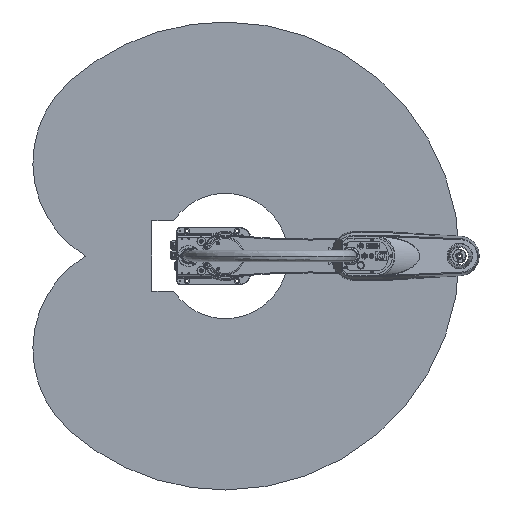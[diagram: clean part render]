
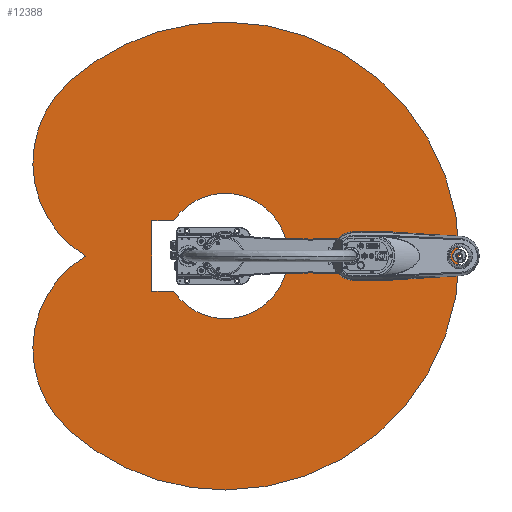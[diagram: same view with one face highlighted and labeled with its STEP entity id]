
A CAD part, left-side view. The second image highlights one B-rep face of the part: STEP entity #12388.
In plain terms, the highlighted planar face has unit normal (-1, 0, 0) as drawn and (0, -1, 0) by its records, which use the part's own axes.
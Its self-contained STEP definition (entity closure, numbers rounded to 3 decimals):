
#1773 = EDGE_CURVE ( 'NONE', #23211, #114448, #43811, .T. ) ;
#2830 = FACE_OUTER_BOUND ( 'NONE', #104719, .T. ) ;
#3336 = AXIS2_PLACEMENT_3D ( 'NONE', #103872, #94547, #105117 ) ;
#3426 = EDGE_LOOP ( 'NONE', ( #86928, #67256, #100116, #80178, #57767, #36281 ) ) ;
#8699 = AXIS2_PLACEMENT_3D ( 'NONE', #41858, #30717, #69719 ) ;
#9034 = CARTESIAN_POINT ( 'NONE',  ( 0., 0., 0. ) ) ;
#10768 = DIRECTION ( 'NONE',  ( 0., 0., 1. ) ) ;
#11039 = VECTOR ( 'NONE', #11807, 1000. ) ;
#11221 = CARTESIAN_POINT ( 'NONE',  ( 0., 0., 0. ) ) ;
#11807 = DIRECTION ( 'NONE',  ( -1., 0., 0. ) ) ;
#12184 = DIRECTION ( 'NONE',  ( 0., 1., 0. ) ) ;
#12388 = ADVANCED_FACE ( 'NONE', ( #2830, #98858 ), #87125, .T. ) ;
#13981 = CARTESIAN_POINT ( 'NONE',  ( 220., 0., -105. ) ) ;
#14225 = VERTEX_POINT ( 'NONE', #58278 ) ;
#14537 = EDGE_CURVE ( 'NONE', #86498, #76480, #83116, .T. ) ;
#15632 = LINE ( 'NONE', #43542, #24030 ) ;
#15682 = ORIENTED_EDGE ( 'NONE', *, *, #14537, .F. ) ;
#17871 = LINE ( 'NONE', #55684, #45262 ) ;
#20796 = DIRECTION ( 'NONE',  ( 0., 0., 1. ) ) ;
#23211 = VERTEX_POINT ( 'NONE', #115252 ) ;
#23435 = DIRECTION ( 'NONE',  ( 0., 1., 0. ) ) ;
#24030 = VECTOR ( 'NONE', #44142, 1000. ) ;
#25366 = ORIENTED_EDGE ( 'NONE', *, *, #1773, .F. ) ;
#27861 = AXIS2_PLACEMENT_3D ( 'NONE', #59289, #86549, #97076 ) ;
#28753 = DIRECTION ( 'NONE',  ( 0., 1., 0. ) ) ;
#30194 = CARTESIAN_POINT ( 'NONE',  ( 0., 0., 0. ) ) ;
#30717 = DIRECTION ( 'NONE',  ( 0., 1., 0. ) ) ;
#31360 = DIRECTION ( 'NONE',  ( 0., -1., 0. ) ) ;
#33877 = CIRCLE ( 'NONE', #27861, 325. ) ;
#36281 = ORIENTED_EDGE ( 'NONE', *, *, #66212, .T. ) ;
#41858 = CARTESIAN_POINT ( 'NONE',  ( 0., 0., 0. ) ) ;
#43542 = CARTESIAN_POINT ( 'NONE',  ( 220., 0., -105. ) ) ;
#43811 = CIRCLE ( 'NONE', #75468, 700. ) ;
#44142 = DIRECTION ( 'NONE',  ( 0., 0., -1. ) ) ;
#44875 = CARTESIAN_POINT ( 'NONE',  ( 468.391, 0., 520.201 ) ) ;
#45262 = VECTOR ( 'NONE', #93447, 1000. ) ;
#46095 = VERTEX_POINT ( 'NONE', #93019 ) ;
#48769 = EDGE_CURVE ( 'NONE', #14225, #46095, #74550, .T. ) ;
#48773 = CIRCLE ( 'NONE', #94180, 187.5 ) ;
#49033 = DIRECTION ( 'NONE',  ( 0., 0., 1. ) ) ;
#55684 = CARTESIAN_POINT ( 'NONE',  ( 220., 0., 105. ) ) ;
#57767 = ORIENTED_EDGE ( 'NONE', *, *, #75472, .T. ) ;
#58202 = CIRCLE ( 'NONE', #8699, 700. ) ;
#58278 = CARTESIAN_POINT ( 'NONE',  ( 155.342, 0., -105. ) ) ;
#59289 = CARTESIAN_POINT ( 'NONE',  ( 250.924, 0., 278.679 ) ) ;
#59552 = CARTESIAN_POINT ( 'NONE',  ( 155.342, 0., 105. ) ) ;
#64482 = VERTEX_POINT ( 'NONE', #59552 ) ;
#65234 = EDGE_CURVE ( 'NONE', #76480, #23211, #65405, .T. ) ;
#65405 = CIRCLE ( 'NONE', #87164, 700. ) ;
#66115 = VERTEX_POINT ( 'NONE', #93960 ) ;
#66212 = EDGE_CURVE ( 'NONE', #66115, #82171, #15632, .T. ) ;
#67256 = ORIENTED_EDGE ( 'NONE', *, *, #48769, .T. ) ;
#69719 = DIRECTION ( 'NONE',  ( 0., 0., 1. ) ) ;
#70044 = CARTESIAN_POINT ( 'NONE',  ( 155.342, 0., -105. ) ) ;
#71235 = CARTESIAN_POINT ( 'NONE',  ( 0., 0., 700. ) ) ;
#74031 = ORIENTED_EDGE ( 'NONE', *, *, #101599, .F. ) ;
#74550 = CIRCLE ( 'NONE', #3336, 187.5 ) ;
#75180 = AXIS2_PLACEMENT_3D ( 'NONE', #90317, #23435, #107135 ) ;
#75244 = VERTEX_POINT ( 'NONE', #44875 ) ;
#75468 = AXIS2_PLACEMENT_3D ( 'NONE', #30194, #12184, #76658 ) ;
#75472 = EDGE_CURVE ( 'NONE', #64482, #66115, #17871, .T. ) ;
#76480 = VERTEX_POINT ( 'NONE', #105126 ) ;
#76658 = DIRECTION ( 'NONE',  ( 0., 0., 1. ) ) ;
#78158 = ORIENTED_EDGE ( 'NONE', *, *, #78235, .F. ) ;
#78235 = EDGE_CURVE ( 'NONE', #75244, #86498, #33877, .T. ) ;
#79158 = AXIS2_PLACEMENT_3D ( 'NONE', #95660, #28753, #10768 ) ;
#79322 = LINE ( 'NONE', #70044, #11039 ) ;
#80178 = ORIENTED_EDGE ( 'NONE', *, *, #92521, .T. ) ;
#81036 = ORIENTED_EDGE ( 'NONE', *, *, #65234, .F. ) ;
#82171 = VERTEX_POINT ( 'NONE', #13981 ) ;
#83116 = CIRCLE ( 'NONE', #75180, 325. ) ;
#86498 = VERTEX_POINT ( 'NONE', #94085 ) ;
#86549 = DIRECTION ( 'NONE',  ( 0., 1., 0. ) ) ;
#86808 = CARTESIAN_POINT ( 'NONE',  ( 0., 0., 187.5 ) ) ;
#86928 = ORIENTED_EDGE ( 'NONE', *, *, #121219, .T. ) ;
#87125 = PLANE ( 'NONE',  #88875 ) ;
#87164 = AXIS2_PLACEMENT_3D ( 'NONE', #11221, #115952, #49033 ) ;
#88055 = EDGE_CURVE ( 'NONE', #46095, #113893, #48773, .T. ) ;
#88875 = AXIS2_PLACEMENT_3D ( 'NONE', #116873, #31360, #97049 ) ;
#90317 = CARTESIAN_POINT ( 'NONE',  ( 250.924, 0., -278.679 ) ) ;
#92521 = EDGE_CURVE ( 'NONE', #113893, #64482, #98891, .T. ) ;
#93019 = CARTESIAN_POINT ( 'NONE',  ( 0., 0., -187.5 ) ) ;
#93447 = DIRECTION ( 'NONE',  ( 1., 0., 0. ) ) ;
#93960 = CARTESIAN_POINT ( 'NONE',  ( 220., 0., 105. ) ) ;
#94085 = CARTESIAN_POINT ( 'NONE',  ( 418.145, 0., 0. ) ) ;
#94180 = AXIS2_PLACEMENT_3D ( 'NONE', #9034, #113164, #20796 ) ;
#94547 = DIRECTION ( 'NONE',  ( 0., 1., 0. ) ) ;
#95660 = CARTESIAN_POINT ( 'NONE',  ( 0., 0., 0. ) ) ;
#97049 = DIRECTION ( 'NONE',  ( 0., 0., -1. ) ) ;
#97076 = DIRECTION ( 'NONE',  ( 0., 0., -1. ) ) ;
#98858 = FACE_BOUND ( 'NONE', #3426, .T. ) ;
#98891 = CIRCLE ( 'NONE', #79158, 187.5 ) ;
#100116 = ORIENTED_EDGE ( 'NONE', *, *, #88055, .T. ) ;
#101599 = EDGE_CURVE ( 'NONE', #114448, #75244, #58202, .T. ) ;
#103872 = CARTESIAN_POINT ( 'NONE',  ( 0., 0., 0. ) ) ;
#104719 = EDGE_LOOP ( 'NONE', ( #78158, #74031, #25366, #81036, #15682 ) ) ;
#105117 = DIRECTION ( 'NONE',  ( 0., 0., 1. ) ) ;
#105126 = CARTESIAN_POINT ( 'NONE',  ( 468.391, 0., -520.201 ) ) ;
#107135 = DIRECTION ( 'NONE',  ( 0., 0., 1. ) ) ;
#113164 = DIRECTION ( 'NONE',  ( 0., 1., 0. ) ) ;
#113893 = VERTEX_POINT ( 'NONE', #86808 ) ;
#114448 = VERTEX_POINT ( 'NONE', #71235 ) ;
#115252 = CARTESIAN_POINT ( 'NONE',  ( 0., 0., -700. ) ) ;
#115952 = DIRECTION ( 'NONE',  ( 0., 1., 0. ) ) ;
#116873 = CARTESIAN_POINT ( 'NONE',  ( 125.462, 0., 139.34 ) ) ;
#121219 = EDGE_CURVE ( 'NONE', #82171, #14225, #79322, .T. ) ;
